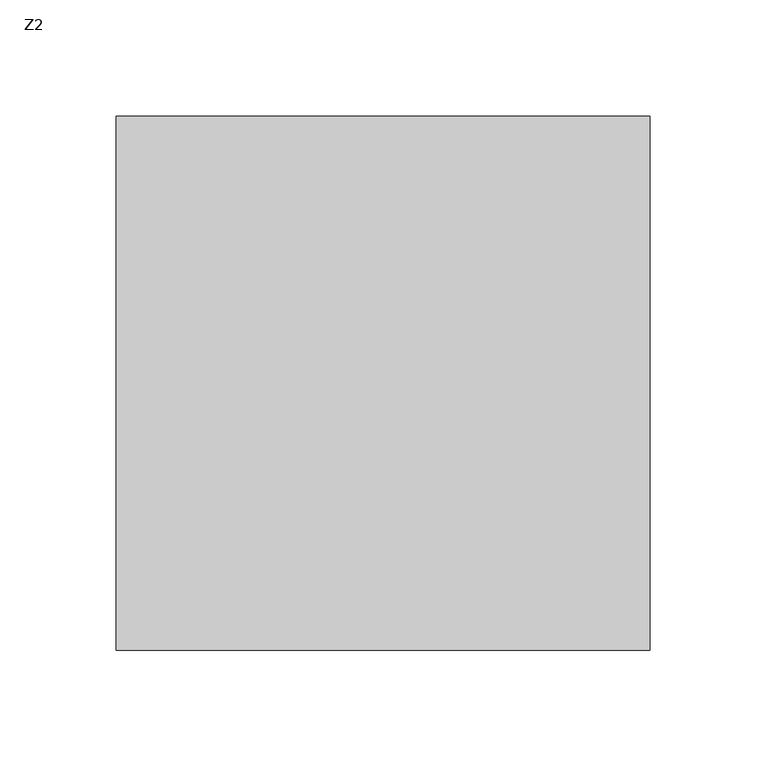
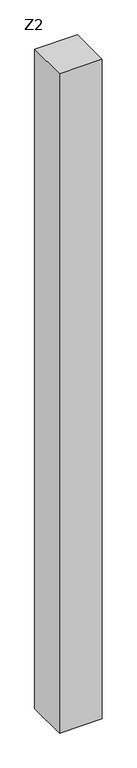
"""IFC4 building model written with IfcOpenShell, lengths in millimetres: column geometry, 混凝土 - 矩形 - 柱 : Z2."""

from ifc_helpers import new_model, si_unit, frame, origin, place, context, project, spatial, polyline, outline, extrude, source, transform, mapped, element, save


def z2_a2c7232a(model_context):
    return source(origin(), model_context, "Body", "SweptSolid", [
        extrude(outline(polyline([(115.0, 115.0), (115.0, -115.0), (-115.0, -115.0), (-115.0, 115.0), (115.0, 115.0)])), frame((0.0, 0.0, 3900.0), z_axis=(0.0, 0.0, 1.0), x_axis=(1.0, 0.0, 0.0)), (0.0, 0.0, 1.0), 3750.0),
    ])


if __name__ == "__main__":
    model = new_model("IFC4")
    model_context = context("Model", 3, world=origin())
    ifc_project = project(units=[si_unit("LENGTHUNIT", "METRE", prefix="MILLI")], contexts=[model_context])
    site = spatial("IfcSite", under=ifc_project)
    building = spatial("IfcBuilding", under=site)
    placement = place(None, origin())
    z2_shape = z2_a2c7232a(model_context)
    element("IfcColumn", 1, ObjectType="混凝土 - 矩形 - 柱 : Z2", at=placement, inside=building, context=model_context, shape_type="MappedRepresentation", body=[
        mapped(z2_shape, transform((0.0, 0.0, 0.0), x_axis=(1.0, 0.0, 0.0), y_axis=(0.0, 1.0, 0.0), z_axis=(0.0, 0.0, 1.0))),
    ])
    save(model, "model.ifc")
